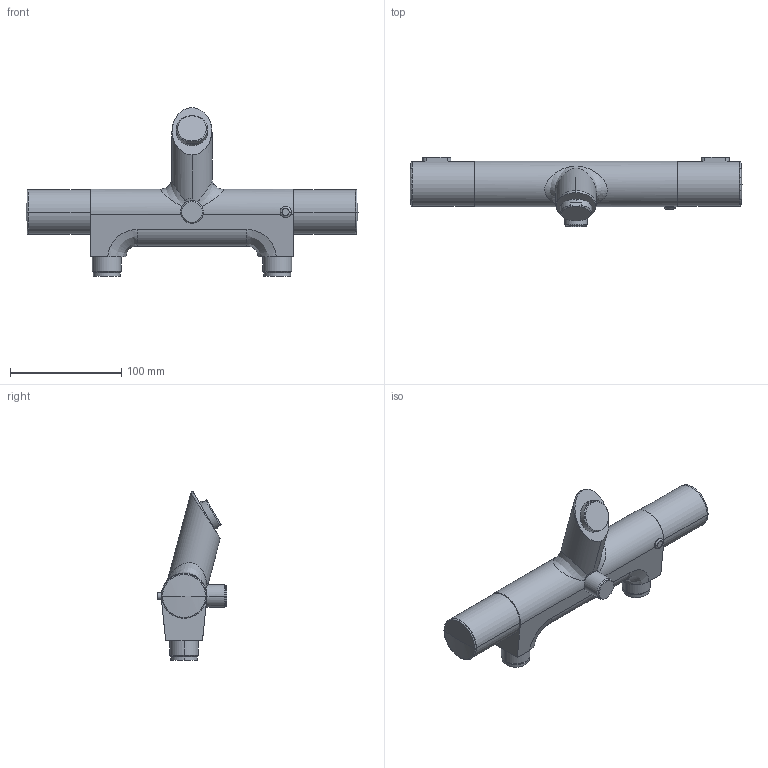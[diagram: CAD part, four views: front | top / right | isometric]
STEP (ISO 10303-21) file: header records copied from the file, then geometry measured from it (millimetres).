
FILE_DESCRIPTION((''),'2;1');
FILE_NAME('26009413','2021-06-09T17:01:34',('SN986'),(''),'CREO PARAMETRIC BY PTC INC, 2018500','CREO PARAMETRIC BY PTC INC, 2018500','');
FILE_SCHEMA(('CONFIG_CONTROL_DESIGN'));
Length unit declared in the file: millimetre
Products named in the file (1): 26009413
Bounding box: 297.8 x 62.75 x 151.28 mm (x, y, z)
Volume: 572581 mm3; surface area: 64963.9 mm2
Topology: 3 solids, 3 shells, 101 faces, 249 edges, 160 vertices
Faces by surface type: cylinder 36, plane 32, torus 12, bspline 9, cone 8, sphere 4
Entity records: 4709 total; most frequent: CARTESIAN_POINT 2365, ORIENTED_EDGE 490, DIRECTION 464, EDGE_CURVE 245, AXIS2_PLACEMENT_3D 189, VERTEX_POINT 160, EDGE_LOOP 111, FACE_OUTER_BOUND 101
